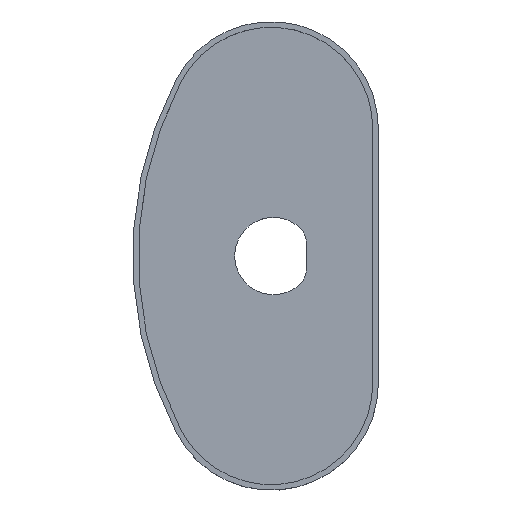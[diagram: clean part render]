
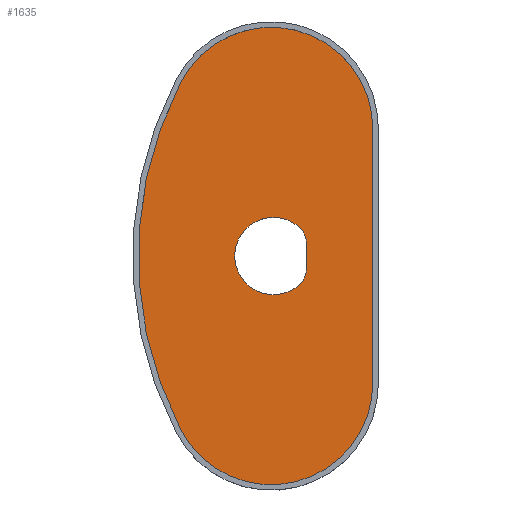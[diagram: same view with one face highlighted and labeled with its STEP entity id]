
A CAD part, top view. The second image highlights one B-rep face of the part: STEP entity #1635.
In plain terms, the highlighted planar face has unit normal (0, 0, 1).
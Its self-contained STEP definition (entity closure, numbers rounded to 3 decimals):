
#26=FACE_BOUND('',#304,.T.);
#82=PLANE('',#1911);
#187=FACE_OUTER_BOUND('',#303,.T.);
#303=EDGE_LOOP('',(#1467,#1468,#1469,#1470));
#304=EDGE_LOOP('',(#1471,#1472,#1473,#1474));
#311=LINE('',#2532,#399);
#388=LINE('',#2966,#476);
#399=VECTOR('',#1939,10.);
#476=VECTOR('',#2470,10.);
#483=CIRCLE('',#1661,2.);
#485=CIRCLE('',#1664,3.5);
#487=CIRCLE('',#1667,2.);
#623=CIRCLE('',#1895,9.2);
#625=CIRCLE('',#1899,9.2);
#627=CIRCLE('',#1902,34.);
#631=VERTEX_POINT('',#2511);
#632=VERTEX_POINT('',#2512);
#635=VERTEX_POINT('',#2520);
#637=VERTEX_POINT('',#2526);
#765=VERTEX_POINT('',#2956);
#766=VERTEX_POINT('',#2958);
#768=VERTEX_POINT('',#2964);
#770=VERTEX_POINT('',#2970);
#775=EDGE_CURVE('',#631,#632,#483,.T.);
#779=EDGE_CURVE('',#632,#635,#485,.T.);
#782=EDGE_CURVE('',#635,#637,#487,.T.);
#785=EDGE_CURVE('',#637,#631,#311,.T.);
#993=EDGE_CURVE('',#766,#765,#623,.T.);
#997=EDGE_CURVE('',#765,#768,#388,.T.);
#1000=EDGE_CURVE('',#768,#770,#625,.T.);
#1002=EDGE_CURVE('',#770,#766,#627,.T.);
#1467=ORIENTED_EDGE('',*,*,#993,.T.);
#1468=ORIENTED_EDGE('',*,*,#997,.T.);
#1469=ORIENTED_EDGE('',*,*,#1000,.T.);
#1470=ORIENTED_EDGE('',*,*,#1002,.T.);
#1471=ORIENTED_EDGE('',*,*,#782,.T.);
#1472=ORIENTED_EDGE('',*,*,#785,.T.);
#1473=ORIENTED_EDGE('',*,*,#775,.T.);
#1474=ORIENTED_EDGE('',*,*,#779,.T.);
#1635=ADVANCED_FACE('',(#187,#26),#82,.T.);
#1661=AXIS2_PLACEMENT_3D('',#2513,#1917,#1918);
#1664=AXIS2_PLACEMENT_3D('',#2521,#1925,#1926);
#1667=AXIS2_PLACEMENT_3D('',#2527,#1932,#1933);
#1895=AXIS2_PLACEMENT_3D('',#2959,#2463,#2464);
#1899=AXIS2_PLACEMENT_3D('',#2972,#2476,#2477);
#1902=AXIS2_PLACEMENT_3D('',#2975,#2482,#2483);
#1911=AXIS2_PLACEMENT_3D('',#2993,#2505,#2506);
#1917=DIRECTION('center_axis',(0.,0.,-1.));
#1918=DIRECTION('ref_axis',(1.,0.,0.));
#1925=DIRECTION('center_axis',(0.,0.,-1.));
#1926=DIRECTION('ref_axis',(0.667,-0.745,0.));
#1932=DIRECTION('center_axis',(0.,0.,-1.));
#1933=DIRECTION('ref_axis',(0.667,0.745,0.));
#1939=DIRECTION('',(0.,-1.,0.));
#2463=DIRECTION('center_axis',(0.,0.,1.));
#2464=DIRECTION('ref_axis',(0.886,0.464,0.));
#2470=DIRECTION('',(0.,1.,0.));
#2476=DIRECTION('center_axis',(0.,0.,1.));
#2477=DIRECTION('ref_axis',(-1.,0.,0.));
#2482=DIRECTION('center_axis',(0.,0.,1.));
#2483=DIRECTION('ref_axis',(0.886,-0.464,0.));
#2505=DIRECTION('center_axis',(0.,0.,1.));
#2506=DIRECTION('ref_axis',(1.,0.,0.));
#2511=CARTESIAN_POINT('',(4.614,-1.118,0.5));
#2512=CARTESIAN_POINT('',(3.947,-2.609,0.5));
#2513=CARTESIAN_POINT('Origin',(2.614,-1.118,0.5));
#2520=CARTESIAN_POINT('',(3.947,2.609,0.5));
#2521=CARTESIAN_POINT('Origin',(1.614,0.,0.5));
#2526=CARTESIAN_POINT('',(4.614,1.118,0.5));
#2527=CARTESIAN_POINT('Origin',(2.614,1.118,0.5));
#2532=CARTESIAN_POINT('',(4.614,-0.559,0.5));
#2956=CARTESIAN_POINT('',(10.614,-11.5,0.5));
#2958=CARTESIAN_POINT('',(-6.737,-15.766,0.5));
#2959=CARTESIAN_POINT('Origin',(1.414,-11.5,0.5));
#2964=CARTESIAN_POINT('',(10.614,11.5,0.5));
#2966=CARTESIAN_POINT('',(10.614,5.75,0.5));
#2970=CARTESIAN_POINT('',(-6.737,15.766,0.5));
#2972=CARTESIAN_POINT('Origin',(1.414,11.5,0.5));
#2975=CARTESIAN_POINT('Origin',(23.386,0.,
0.5));
#2993=CARTESIAN_POINT('Origin',(0.,0.,0.5));
